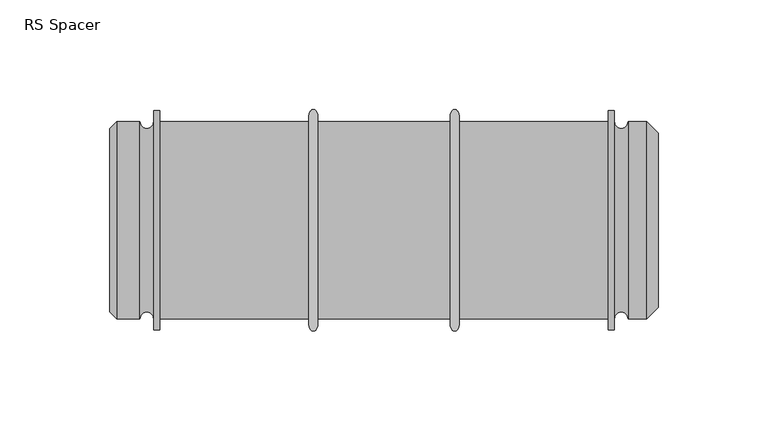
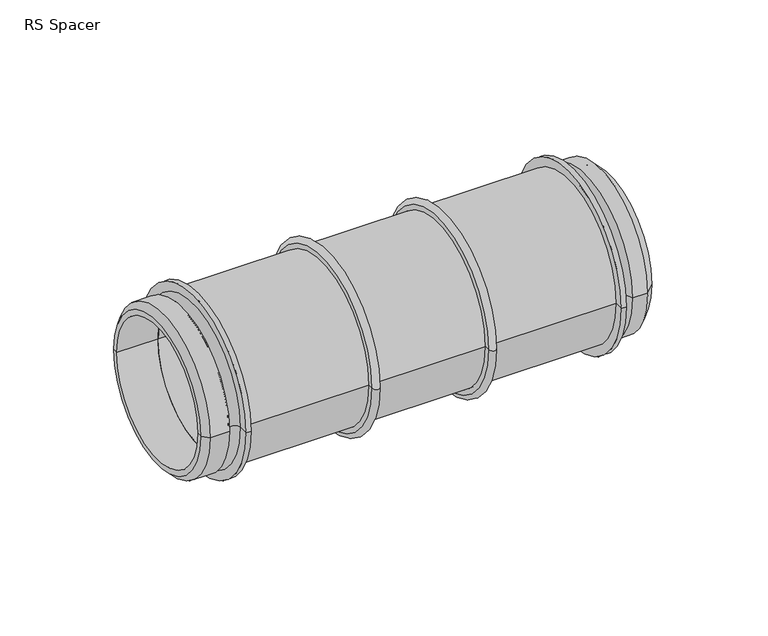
"""IFC4 building model written with IfcOpenShell, lengths in millimetres: pipe fitting geometry, RS Spacer : Superpipe RS Spacer - RS3 210mm."""

from ifc_helpers import new_model, si_unit, point, frame, origin, place, context, project, spatial, polyline, circle_curve, ellipse_curve, trimmed, source, transform, mapped, element, save
from ifc_brep_helpers import plane_surface, cylinder_surface, revolved_surface, advanced_brep


def rs_spacer_c2a2605f(model_context):
    return source(origin(), model_context, "Body", "AdvancedBrep", [
        advanced_brep(
        [(159.2, -45.0, 0.0), (159.2, 45.0, 0.0), (155.2, 45.0, 0.0), (155.2, -45.0, 0.0), (159.2, -47.75, 0.0), (159.2, 47.75, 0.0), (155.2, 47.75, 0.0), (155.2, -47.75, 0.0)],
        [
            (0, 1, circle_curve(frame((159.2, 0.0, 0.0), z_axis=(1.0, 0.0, 0.0), x_axis=(0.0, 1.0, 0.0)), 45.0)),
            (1, 2),
            (2, 3, circle_curve(frame((155.2, 0.0, 0.0), z_axis=(-1.0, 0.0, 0.0), x_axis=(0.0, 1.0, 0.0)), 45.0)),
            (3, 0),
            (1, 0, circle_curve(frame((159.2, 0.0, 0.0), z_axis=(1.0, 0.0, 0.0), x_axis=(0.0, 1.0, 0.0)), 45.0)),
            (3, 2, circle_curve(frame((155.2, 0.0, 0.0), z_axis=(-1.0, 0.0, 0.0), x_axis=(0.0, 1.0, 0.0)), 45.0)),
            (4, 5, circle_curve(frame((159.2, 0.0, 0.0), z_axis=(1.0, 0.0, 0.0), x_axis=(0.0, 1.0, 0.0)), 47.75)),
            (5, 1),
            (0, 4),
            (5, 4, circle_curve(frame((159.2, 0.0, 0.0), z_axis=(1.0, 0.0, 0.0), x_axis=(0.0, 1.0, 0.0)), 47.75)),
            (2, 6),
            (6, 7, circle_curve(frame((155.2, 0.0, 0.0), z_axis=(-1.0, 0.0, 0.0), x_axis=(0.0, 1.0, 0.0)), 47.75)),
            (7, 3),
            (7, 6, circle_curve(frame((155.2, 0.0, 0.0), z_axis=(-1.0, 0.0, 0.0), x_axis=(0.0, 1.0, 0.0)), 47.75)),
            (6, 5, ellipse_curve(frame((157.2, 47.75, 0.0), z_axis=(0.0, 0.0, -1.0), x_axis=(0.0, -1.0, 0.0)), 2.75, 2.0)),
            (4, 7, ellipse_curve(frame((157.2, -47.75, 0.0), z_axis=(0.0, 0.0, -1.0), x_axis=(0.0, 1.0, 0.0)), 2.75, 2.0)),
        ],
        [
            revolved_surface(polyline([(155.20000000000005, 45.0, 0.0), (159.20000000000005, 45.0, 0.0)]), (2080.0, 0.0, 0.0), (-1.0, 0.0, 0.0)),
            plane_surface(frame((159.2, 0.0, 0.0), z_axis=(1.0, 0.0, 0.0), x_axis=(0.0, 1.0, 0.0))),
            plane_surface(frame((155.2, 0.0, 0.0), z_axis=(-1.0, 0.0, 0.0), x_axis=(0.0, 1.0, 0.0))),
            revolved_surface(trimmed(ellipse_curve(frame((157.2, 47.75, 0.0), z_axis=(0.0, 0.0, 1.0), x_axis=(-1.0, 0.0, 0.0)), 2.0, 2.75), [point((159.2, 47.75, 0.0))], [point((155.2, 47.75, 0.0))], True, "CARTESIAN"), (2080.0, 0.0, 0.0), (-1.0, 0.0, 0.0)),
        ],
        [
            (0, [[1, 2, 3, 4]]),
            (0, [[5, -4, 6, -2]]),
            (1, [[7, 8, -1, 9]]),
            (1, [[10, -9, -5, -8]]),
            (2, [[-3, 11, 12, 13]]),
            (2, [[-6, -13, 14, -11]]),
            (3, [[-12, 15, -7, 16]]),
            (3, [[-14, -16, -10, -15]]),
        ],
    ),
        advanced_brep(
        [(94.8, -45.0, 0.0), (94.8, 45.0, 0.0), (90.8, 45.0, 0.0), (90.8, -45.0, 0.0), (94.8, -47.75, 0.0), (94.8, 47.75, 0.0), (90.8, 47.75, 0.0), (90.8, -47.75, 0.0)],
        [
            (0, 1, circle_curve(frame((94.8, 0.0, 0.0), z_axis=(1.0, 0.0, 0.0), x_axis=(0.0, 1.0, 0.0)), 45.0)),
            (1, 2),
            (2, 3, circle_curve(frame((90.8, 0.0, 0.0), z_axis=(-1.0, 0.0, 0.0), x_axis=(0.0, 1.0, 0.0)), 45.0)),
            (3, 0),
            (1, 0, circle_curve(frame((94.8, 0.0, 0.0), z_axis=(1.0, 0.0, 0.0), x_axis=(0.0, 1.0, 0.0)), 45.0)),
            (3, 2, circle_curve(frame((90.8, 0.0, 0.0), z_axis=(-1.0, 0.0, 0.0), x_axis=(0.0, 1.0, 0.0)), 45.0)),
            (4, 5, circle_curve(frame((94.8, 0.0, 0.0), z_axis=(1.0, 0.0, 0.0), x_axis=(0.0, 1.0, 0.0)), 47.75)),
            (5, 1),
            (0, 4),
            (5, 4, circle_curve(frame((94.8, 0.0, 0.0), z_axis=(1.0, 0.0, 0.0), x_axis=(0.0, 1.0, 0.0)), 47.75)),
            (2, 6),
            (6, 7, circle_curve(frame((90.8, 0.0, 0.0), z_axis=(-1.0, 0.0, 0.0), x_axis=(0.0, 1.0, 0.0)), 47.75)),
            (7, 3),
            (7, 6, circle_curve(frame((90.8, 0.0, 0.0), z_axis=(-1.0, 0.0, 0.0), x_axis=(0.0, 1.0, 0.0)), 47.75)),
            (6, 5, ellipse_curve(frame((92.8, 47.75, 0.0), z_axis=(0.0, 0.0, -1.0), x_axis=(0.0, -1.0, 0.0)), 2.75, 2.0)),
            (4, 7, ellipse_curve(frame((92.8, -47.75, 0.0), z_axis=(0.0, 0.0, -1.0), x_axis=(0.0, 1.0, 0.0)), 2.75, 2.0)),
        ],
        [
            revolved_surface(polyline([(90.79999999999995, 45.0, 0.0), (94.79999999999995, 45.0, 0.0)]), (2080.0, 0.0, 0.0), (-1.0, 0.0, 0.0)),
            plane_surface(frame((94.8, 0.0, 0.0), z_axis=(1.0, 0.0, 0.0), x_axis=(0.0, 1.0, 0.0))),
            plane_surface(frame((90.8, 0.0, 0.0), z_axis=(-1.0, 0.0, 0.0), x_axis=(0.0, 1.0, 0.0))),
            revolved_surface(trimmed(ellipse_curve(frame((92.8, 47.75, 0.0), z_axis=(0.0, 0.0, 1.0), x_axis=(-1.0, 0.0, 0.0)), 2.0, 2.75), [point((94.8, 47.75, 0.0))], [point((90.8, 47.75, 0.0))], True, "CARTESIAN"), (2080.0, 0.0, 0.0), (-1.0, 0.0, 0.0)),
        ],
        [
            (0, [[1, 2, 3, 4]]),
            (0, [[5, -4, 6, -2]]),
            (1, [[7, 8, -1, 9]]),
            (1, [[10, -9, -5, -8]]),
            (2, [[-3, 11, 12, 13]]),
            (2, [[-6, -13, 14, -11]]),
            (3, [[-12, 15, -7, 16]]),
            (3, [[-14, -16, -10, -15]]),
        ],
    ),
        advanced_brep(
        [(227.2, -45.0, 0.0), (227.2, 45.0, 0.0), (227.2, 38.8, 0.0), (227.2, -38.8, 0.0), (22.8, 38.8, 0.0), (22.8, -38.8, 0.0), (22.8, 45.0, 0.0), (22.8, -45.0, 0.0)],
        [
            (0, 1, circle_curve(frame((227.2, 0.0, 0.0), z_axis=(1.0, 0.0, 0.0), x_axis=(0.0, 1.0, 0.0)), 45.0)),
            (1, 2),
            (2, 3, circle_curve(frame((227.2, 0.0, 0.0), z_axis=(-1.0, 0.0, 0.0), x_axis=(0.0, 1.0, 0.0)), 38.8)),
            (3, 0),
            (2, 4),
            (4, 5, circle_curve(frame((22.8, 0.0, 0.0), z_axis=(-1.0, 0.0, 0.0), x_axis=(0.0, 1.0, 0.0)), 38.8)),
            (5, 3),
            (4, 6),
            (6, 7, circle_curve(frame((22.8, 0.0, 0.0), z_axis=(-1.0, 0.0, 0.0), x_axis=(0.0, 1.0, 0.0)), 45.0)),
            (7, 5),
            (6, 1),
            (0, 7),
            (6, 7, circle_curve(frame((22.8, 0.0, 0.0), z_axis=(1.0, 0.0, 0.0), x_axis=(0.0, 1.0, 0.0)), 45.0)),
            (0, 1, circle_curve(frame((227.2, 0.0, 0.0), z_axis=(-1.0, 0.0, 0.0), x_axis=(0.0, 1.0, 0.0)), 45.0)),
            (4, 5, circle_curve(frame((22.8, 0.0, 0.0), z_axis=(1.0, 0.0, 0.0), x_axis=(0.0, 1.0, 0.0)), 38.8)),
            (2, 3, circle_curve(frame((227.2, 0.0, 0.0), z_axis=(1.0, 0.0, 0.0), x_axis=(0.0, 1.0, 0.0)), 38.8)),
        ],
        [
            plane_surface(frame((227.2, 0.0, 0.0), z_axis=(1.0, 0.0, 0.0), x_axis=(0.0, 1.0, 0.0))),
            revolved_surface(polyline([(22.799999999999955, 38.8, 0.0), (227.20000000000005, 38.8, 0.0)]), (2000.0, 0.0, 0.0), (-1.0, 0.0, 0.0)),
            plane_surface(frame((22.8, 0.0, 0.0), z_axis=(-1.0, 0.0, 0.0), x_axis=(0.0, 1.0, 0.0))),
            cylinder_surface(frame((2000.0, 0.0, 0.0), z_axis=(-1.0, 0.0, 0.0), x_axis=(0.0, 1.0, 0.0)), 45.0),
        ],
        [
            (0, [[1, 2, 3, 4]]),
            (1, [[-3, 5, 6, 7]]),
            (2, [[-6, 8, 9, 10]]),
            (3, [[-9, 11, -1, 12]]),
            (3, [[13, -12, 14, -11]]),
            (2, [[15, -10, -13, -8]]),
            (1, [[16, -7, -15, -5]]),
            (0, [[-14, -4, -16, -2]]),
        ],
    ),
        advanced_brep(
        [(227.2, -50.0, 0.0), (227.2, 50.0, 0.0), (230.0, 50.0, 0.0), (230.0, -50.0, 0.0), (230.0, 45.0, 0.0), (230.0, -45.0, 0.0), (250.0, -38.8, 0.0), (250.0, 38.8, 0.0), (227.2, 38.8, 0.0), (227.2, -38.8, 0.0), (244.8, -45.0, 0.0), (244.8, 45.0, 0.0), (250.0, 39.8, 0.0), (250.0, -39.8, 0.0), (236.2, 45.0, 0.0), (236.2, -45.0, 0.0)],
        [
            (0, 1, circle_curve(frame((227.2, 0.0, 0.0), z_axis=(1.0, 0.0, 0.0), x_axis=(0.0, 1.0, 0.0)), 50.0)),
            (1, 2),
            (2, 3, circle_curve(frame((230.0, 0.0, 0.0), z_axis=(-1.0, 0.0, 0.0), x_axis=(0.0, 1.0, 0.0)), 50.0)),
            (3, 0),
            (1, 0, circle_curve(frame((227.2, 0.0, 0.0), z_axis=(1.0, 0.0, 0.0), x_axis=(0.0, 1.0, 0.0)), 50.0)),
            (3, 2, circle_curve(frame((230.0, 0.0, 0.0), z_axis=(-1.0, 0.0, 0.0), x_axis=(0.0, 1.0, 0.0)), 50.0)),
            (2, 4),
            (4, 5, circle_curve(frame((230.0, 0.0, 0.0), z_axis=(-1.0, 0.0, 0.0), x_axis=(0.0, 1.0, 0.0)), 45.0)),
            (5, 3),
            (5, 4, circle_curve(frame((230.0, 0.0, 0.0), z_axis=(-1.0, 0.0, 0.0), x_axis=(0.0, 1.0, 0.0)), 45.0)),
            (6, 7, circle_curve(frame((250.0, 0.0, 0.0), z_axis=(1.0, 0.0, 0.0), x_axis=(0.0, 1.0, 0.0)), 38.8)),
            (7, 8),
            (8, 9, circle_curve(frame((227.2, 0.0, 0.0), z_axis=(-1.0, 0.0, 0.0), x_axis=(0.0, 1.0, 0.0)), 38.8)),
            (9, 6),
            (7, 6, circle_curve(frame((250.0, 0.0, 0.0), z_axis=(1.0, 0.0, 0.0), x_axis=(0.0, 1.0, 0.0)), 38.8)),
            (9, 8, circle_curve(frame((227.2, 0.0, 0.0), z_axis=(-1.0, 0.0, 0.0), x_axis=(0.0, 1.0, 0.0)), 38.8)),
            (8, 1),
            (0, 9),
            (10, 11, circle_curve(frame((244.8, 0.0, 0.0), z_axis=(1.0, 0.0, 0.0), x_axis=(0.0, 1.0, 0.0)), 45.0)),
            (11, 12),
            (12, 13, circle_curve(frame((250.0, 0.0, 0.0), z_axis=(-1.0, 0.0, 0.0), x_axis=(0.0, 1.0, 0.0)), 39.8)),
            (13, 10),
            (11, 10, circle_curve(frame((244.8, 0.0, 0.0), z_axis=(1.0, 0.0, 0.0), x_axis=(0.0, 1.0, 0.0)), 45.0)),
            (13, 12, circle_curve(frame((250.0, 0.0, 0.0), z_axis=(-1.0, 0.0, 0.0), x_axis=(0.0, 1.0, 0.0)), 39.8)),
            (12, 7),
            (6, 13),
            (4, 14, circle_curve(frame((233.1, 45.0, 0.0), z_axis=(0.0, 0.0, 1.0), x_axis=(-1.0, 0.0, 0.0)), 3.1)),
            (14, 15, circle_curve(frame((236.2, 0.0, 0.0), z_axis=(-1.0, 0.0, 0.0), x_axis=(0.0, 1.0, 0.0)), 45.0)),
            (15, 5, circle_curve(frame((233.1, -45.0, 0.0), z_axis=(0.0, 0.0, 1.0), x_axis=(-1.0, 0.0, 0.0)), 3.1)),
            (15, 14, circle_curve(frame((236.2, 0.0, 0.0), z_axis=(-1.0, 0.0, 0.0), x_axis=(0.0, 1.0, 0.0)), 45.0)),
            (14, 11),
            (10, 15),
        ],
        [
            cylinder_surface(frame((-1994.4, 0.0, 0.0), z_axis=(-1.0, 0.0, 0.0), x_axis=(0.0, 1.0, 0.0)), 50.0),
            plane_surface(frame((230.0, 0.0, 0.0), z_axis=(1.0, 0.0, 0.0), x_axis=(0.0, 1.0, 0.0))),
            revolved_surface(polyline([(227.19999999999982, 38.8, 0.0), (250.0, 38.8, 0.0)]), (-1994.4, 0.0, 0.0), (-1.0, 0.0, 0.0)),
            plane_surface(frame((227.2, 0.0, 0.0), z_axis=(-1.0, 0.0, 0.0), x_axis=(0.0, 1.0, 0.0))),
            revolved_surface(polyline([(250.0, 39.8, 0.0), (244.8, 45.0, 0.0)]), (-1994.4, 0.0, 0.0), (-1.0, 0.0, 0.0)),
            plane_surface(frame((250.0, 0.0, 0.0), z_axis=(1.0, 0.0, 0.0), x_axis=(0.0, 1.0, 0.0))),
            revolved_surface(trimmed(ellipse_curve(frame((233.1, 45.0, 0.0), z_axis=(0.0, 0.0, -1.0), x_axis=(-1.0, 0.0, 0.0)), 3.1, 3.1), [point((236.2, 45.0, 0.0))], [point((230.0, 45.0, 0.0))], True, "CARTESIAN"), (-1994.4, 0.0, 0.0), (-1.0, 0.0, 0.0)),
            cylinder_surface(frame((-1994.4, 0.0, 0.0), z_axis=(-1.0, 0.0, 0.0), x_axis=(0.0, 1.0, 0.0)), 45.0),
        ],
        [
            (0, [[1, 2, 3, 4]]),
            (0, [[5, -4, 6, -2]]),
            (1, [[-3, 7, 8, 9]]),
            (1, [[-6, -9, 10, -7]]),
            (2, [[11, 12, 13, 14]]),
            (2, [[15, -14, 16, -12]]),
            (3, [[-13, 17, -1, 18]]),
            (3, [[-16, -18, -5, -17]]),
            (4, [[19, 20, 21, 22]]),
            (4, [[23, -22, 24, -20]]),
            (5, [[-21, 25, -11, 26]]),
            (5, [[-24, -26, -15, -25]]),
            (6, [[-8, 27, 28, 29]]),
            (6, [[-10, -29, 30, -27]]),
            (7, [[-28, 31, -19, 32]]),
            (7, [[-30, -32, -23, -31]]),
        ],
    ),
        advanced_brep(
        [(20.0, -50.0, 0.0), (20.0, 50.0, 0.0), (22.8, 50.0, 0.0), (22.8, -50.0, 0.0), (20.0, -45.0, 0.0), (20.0, 45.0, 0.0), (22.8, -38.8, 0.0), (22.8, 38.8, 0.0), (0.0, 38.8, 0.0), (0.0, -38.8, 0.0), (0.0, -41.8, 0.0), (0.0, 41.8, 0.0), (3.2, 45.0, 0.0), (3.2, -45.0, 0.0), (13.8, -45.0, 0.0), (13.8, 45.0, 0.0)],
        [
            (0, 1, circle_curve(frame((20.0, 0.0, 0.0), z_axis=(1.0, 0.0, 0.0), x_axis=(0.0, 1.0, 0.0)), 50.0)),
            (1, 2),
            (2, 3, circle_curve(frame((22.8, 0.0, 0.0), z_axis=(-1.0, 0.0, 0.0), x_axis=(0.0, 1.0, 0.0)), 50.0)),
            (3, 0),
            (1, 0, circle_curve(frame((20.0, 0.0, 0.0), z_axis=(1.0, 0.0, 0.0), x_axis=(0.0, 1.0, 0.0)), 50.0)),
            (3, 2, circle_curve(frame((22.8, 0.0, 0.0), z_axis=(-1.0, 0.0, 0.0), x_axis=(0.0, 1.0, 0.0)), 50.0)),
            (4, 5, circle_curve(frame((20.0, 0.0, 0.0), z_axis=(1.0, 0.0, 0.0), x_axis=(0.0, 1.0, 0.0)), 45.0)),
            (5, 1),
            (0, 4),
            (5, 4, circle_curve(frame((20.0, 0.0, 0.0), z_axis=(1.0, 0.0, 0.0), x_axis=(0.0, 1.0, 0.0)), 45.0)),
            (6, 7, circle_curve(frame((22.8, 0.0, 0.0), z_axis=(1.0, 0.0, 0.0), x_axis=(0.0, 1.0, 0.0)), 38.8)),
            (7, 8),
            (8, 9, circle_curve(frame((0.0, 0.0, 0.0), z_axis=(-1.0, 0.0, 0.0), x_axis=(0.0, 1.0, 0.0)), 38.8)),
            (9, 6),
            (7, 6, circle_curve(frame((22.8, 0.0, 0.0), z_axis=(1.0, 0.0, 0.0), x_axis=(0.0, 1.0, 0.0)), 38.8)),
            (9, 8, circle_curve(frame((0.0, 0.0, 0.0), z_axis=(-1.0, 0.0, 0.0), x_axis=(0.0, 1.0, 0.0)), 38.8)),
            (2, 7),
            (6, 3),
            (10, 11, circle_curve(frame((0.0, 0.0, 0.0), z_axis=(1.0, 0.0, 0.0), x_axis=(0.0, 1.0, 0.0)), 41.8)),
            (11, 12),
            (12, 13, circle_curve(frame((3.2, 0.0, 0.0), z_axis=(-1.0, 0.0, 0.0), x_axis=(0.0, 1.0, 0.0)), 45.0)),
            (13, 10),
            (11, 10, circle_curve(frame((0.0, 0.0, 0.0), z_axis=(1.0, 0.0, 0.0), x_axis=(0.0, 1.0, 0.0)), 41.8)),
            (13, 12, circle_curve(frame((3.2, 0.0, 0.0), z_axis=(-1.0, 0.0, 0.0), x_axis=(0.0, 1.0, 0.0)), 45.0)),
            (8, 11),
            (10, 9),
            (14, 15, circle_curve(frame((13.8, 0.0, 0.0), z_axis=(1.0, 0.0, 0.0), x_axis=(0.0, 1.0, 0.0)), 45.0)),
            (15, 5, circle_curve(frame((16.9, 45.0, 0.0), z_axis=(0.0, 0.0, 1.0), x_axis=(1.0, 0.0, 0.0)), 3.1)),
            (4, 14, circle_curve(frame((16.9, -45.0, 0.0), z_axis=(0.0, 0.0, 1.0), x_axis=(1.0, 0.0, 0.0)), 3.1)),
            (15, 14, circle_curve(frame((13.8, 0.0, 0.0), z_axis=(1.0, 0.0, 0.0), x_axis=(0.0, 1.0, 0.0)), 45.0)),
            (12, 15),
            (14, 13),
        ],
        [
            cylinder_surface(frame((2170.0, 0.0, 0.0), z_axis=(-1.0, 0.0, 0.0), x_axis=(0.0, 1.0, 0.0)), 50.0),
            plane_surface(frame((20.0, 0.0, 0.0), z_axis=(-1.0, 0.0, 0.0), x_axis=(0.0, 1.0, 0.0))),
            revolved_surface(polyline([(0.0, 38.8, 0.0), (22.800000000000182, 38.8, 0.0)]), (2170.0, 0.0, 0.0), (-1.0, 0.0, 0.0)),
            plane_surface(frame((22.8, 0.0, 0.0), z_axis=(1.0, 0.0, 0.0), x_axis=(0.0, 1.0, 0.0))),
            revolved_surface(polyline([(3.2, 45.0, 0.0), (0.0, 41.8, 0.0)]), (2170.0, 0.0, 0.0), (-1.0, 0.0, 0.0)),
            plane_surface(frame((0.0, 0.0, 0.0), z_axis=(-1.0, 0.0, 0.0), x_axis=(0.0, 1.0, 0.0))),
            revolved_surface(trimmed(ellipse_curve(frame((16.9, 45.0, 0.0), z_axis=(0.0, 0.0, -1.0), x_axis=(1.0, 0.0, 0.0)), 3.1, 3.1), [point((20.0, 45.0, 0.0))], [point((13.8, 45.0, 0.0))], True, "CARTESIAN"), (2170.0, 0.0, 0.0), (-1.0, 0.0, 0.0)),
            cylinder_surface(frame((2170.0, 0.0, 0.0), z_axis=(-1.0, 0.0, 0.0), x_axis=(0.0, 1.0, 0.0)), 45.0),
        ],
        [
            (0, [[1, 2, 3, 4]]),
            (0, [[5, -4, 6, -2]]),
            (1, [[7, 8, -1, 9]]),
            (1, [[10, -9, -5, -8]]),
            (2, [[11, 12, 13, 14]]),
            (2, [[15, -14, 16, -12]]),
            (3, [[-3, 17, -11, 18]]),
            (3, [[-6, -18, -15, -17]]),
            (4, [[19, 20, 21, 22]]),
            (4, [[23, -22, 24, -20]]),
            (5, [[-13, 25, -19, 26]]),
            (5, [[-16, -26, -23, -25]]),
            (6, [[27, 28, -7, 29]]),
            (6, [[30, -29, -10, -28]]),
            (7, [[-21, 31, -27, 32]]),
            (7, [[-24, -32, -30, -31]]),
        ],
    ),
    ])


if __name__ == "__main__":
    model = new_model("IFC4")
    model_context = context("Model", 3, world=origin())
    ifc_project = project(units=[si_unit("LENGTHUNIT", "METRE", prefix="MILLI")], contexts=[model_context])
    site = spatial("IfcSite", under=ifc_project)
    building = spatial("IfcBuilding", under=site)
    placement = place(None, origin())
    rs_spacer_shape = rs_spacer_c2a2605f(model_context)
    element("IfcPipeFitting", 1, ObjectType="RS Spacer : Superpipe RS Spacer - RS3 210mm", at=placement, inside=building, context=model_context, shape_type="MappedRepresentation", body=[
        mapped(rs_spacer_shape, transform((0.0, 0.0, 0.0), x_axis=(1.0, 0.0, 0.0), y_axis=(0.0, 1.0, 0.0), z_axis=(0.0, 0.0, 1.0))),
    ])
    save(model, "model.ifc")
